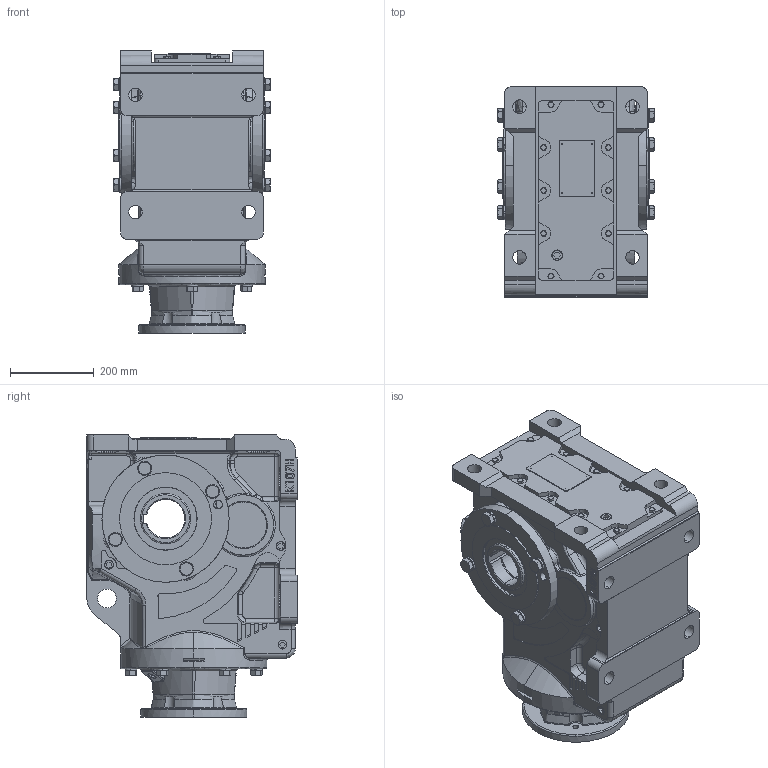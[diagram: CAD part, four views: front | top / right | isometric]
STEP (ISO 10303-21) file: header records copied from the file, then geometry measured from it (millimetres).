
FILE_DESCRIPTION (( 'STEP AP203' ), '1' );
FILE_NAME ('KHN107-254T.STEP', '2023-02-15T07:14:48', ( '' ), ( '' ), 'SwSTEP 2.0', 'SolidWorks 2012', '' );
FILE_SCHEMA (( 'CONFIG_CONTROL_DESIGN' ));
Products named in the file (1): KHN107-254T
Bounding box: 373.2 x 503.5 x 674 mm (x, y, z)
Volume: 69939322.1 mm3; surface area: 1862345.8 mm2
Topology: 1 solids, 44 shells, 2065 faces, 5207 edges, 3260 vertices
Faces by surface type: plane 896, cylinder 562, bspline 313, cone 294
Entity records: 82725 total; most frequent: CARTESIAN_POINT 35142, ORIENTED_EDGE 10276, DIRECTION 9380, EDGE_CURVE 5138, AXIS2_PLACEMENT_3D 3440, VERTEX_POINT 3260, LINE 2500, VECTOR 2500
